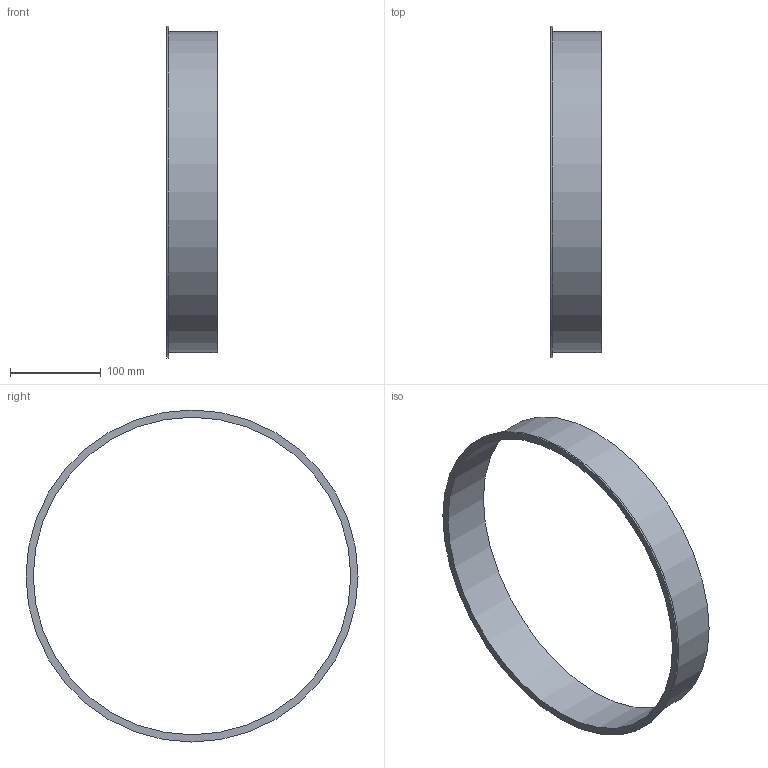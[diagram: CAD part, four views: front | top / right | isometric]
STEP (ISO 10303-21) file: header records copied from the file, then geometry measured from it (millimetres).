
FILE_DESCRIPTION((''),'2;1');
FILE_NAME('U:\Wolfgang\Marcel-3D\fertig\Kapitel 1\3521012.stp','2010-05-31T11:42:22',('TK2'),(''),'Autodesk Inventor 2010','Autodesk Inventor 2010','');
FILE_SCHEMA(('AUTOMOTIVE_DESIGN { 1 0 10303 214 1 1 1 1 }'));
Length unit declared in the file: millimetre
Products named in the file (1): 3521012
Bounding box: 55 x 365 x 365 mm (x, y, z)
Volume: 134830.9 mm3; surface area: 139317.1 mm2
Topology: 1 solids, 1 shells, 6 faces, 9 edges, 6 vertices
Faces by surface type: cylinder 3, plane 3
Full cylindrical faces by diameter (mm): 349 x1, 353 x1, 365 x1
Entity records: 154 total; most frequent: DIRECTION 26, CARTESIAN_POINT 19, AXIS2_PLACEMENT_3D 13, ORIENTED_EDGE 12, EDGE_LOOP 12, VERTEX_POINT 6, CIRCLE 6, EDGE_CURVE 6
